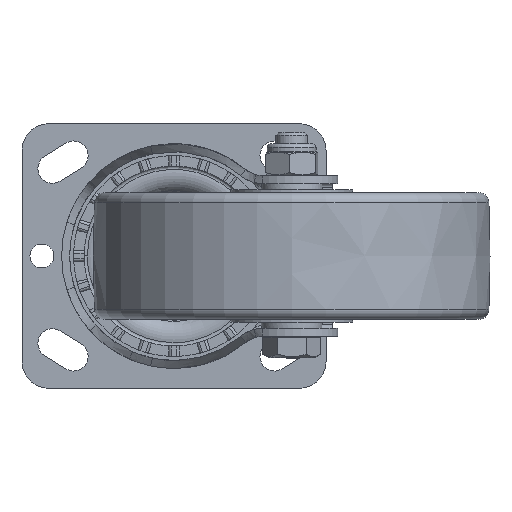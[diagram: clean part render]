
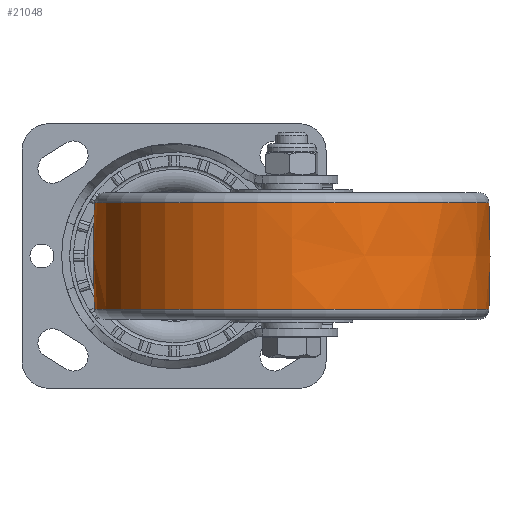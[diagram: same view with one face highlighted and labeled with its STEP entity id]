
A CAD part, front view. The second image highlights one B-rep face of the part: STEP entity #21048.
In plain terms, the highlighted free-form (B-spline) face has degree [2, 2] with [3, 9] control points.
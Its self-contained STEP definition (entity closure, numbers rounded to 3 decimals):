
#15=(
BOUNDED_SURFACE()
B_SPLINE_SURFACE(2,2,((#31087,#31088,#31089,#31090,#31091,#31092,#31093,
#31094,#31095),(#31096,#31097,#31098,#31099,#31100,#31101,#31102,#31103,
#31104),(#31105,#31106,#31107,#31108,#31109,#31110,#31111,#31112,#31113)),
 .UNSPECIFIED.,.F.,.T.,.F.)
B_SPLINE_SURFACE_WITH_KNOTS((3,3),(3,2,2,2,3),(-0.04,0.04),
(-3.142,-1.571,0.,1.571,3.142),
 .UNSPECIFIED.)
GEOMETRIC_REPRESENTATION_ITEM()
RATIONAL_B_SPLINE_SURFACE(((1.,0.707,1.,0.707,1.,
0.707,1.,0.707,1.),(0.999,0.707,
0.999,0.707,0.999,0.707,
0.999,0.707,0.999),(1.,0.707,
1.,0.707,1.,0.707,1.,0.707,1.)))
REPRESENTATION_ITEM('')
SURFACE()
);
#5026=FACE_OUTER_BOUND('',#6259,.T.);
#6259=EDGE_LOOP('',(#15850,#15851,#15852,#15853,#15854,#15855));
#7297=CIRCLE('',#22264,74.594);
#7298=CIRCLE('',#22265,74.594);
#7300=CIRCLE('',#22268,74.594);
#7301=CIRCLE('',#22269,500.5);
#7302=CIRCLE('',#22270,74.594);
#9238=VERTEX_POINT('',#31079);
#9239=VERTEX_POINT('',#31081);
#9241=VERTEX_POINT('',#31114);
#9242=VERTEX_POINT('',#31115);
#11690=EDGE_CURVE('',#9238,#9239,#7297,.T.);
#11691=EDGE_CURVE('',#9239,#9238,#7298,.T.);
#11693=EDGE_CURVE('',#9241,#9242,#7300,.T.);
#11694=EDGE_CURVE('',#9241,#9239,#7301,.T.);
#11695=EDGE_CURVE('',#9242,#9241,#7302,.T.);
#15850=ORIENTED_EDGE('',*,*,#11693,.F.);
#15851=ORIENTED_EDGE('',*,*,#11694,.T.);
#15852=ORIENTED_EDGE('',*,*,#11690,.F.);
#15853=ORIENTED_EDGE('',*,*,#11691,.F.);
#15854=ORIENTED_EDGE('',*,*,#11694,.F.);
#15855=ORIENTED_EDGE('',*,*,#11695,.F.);
#21048=ADVANCED_FACE('',(#5026),#15,.F.);
#22264=AXIS2_PLACEMENT_3D('',#31082,#24430,#24431);
#22265=AXIS2_PLACEMENT_3D('',#31083,#24432,#24433);
#22268=AXIS2_PLACEMENT_3D('',#31116,#24438,#24439);
#22269=AXIS2_PLACEMENT_3D('',#31117,#24440,#24441);
#22270=AXIS2_PLACEMENT_3D('',#31118,#24442,#24443);
#24430=DIRECTION('center_axis',(0.,0.,
-1.));
#24431=DIRECTION('ref_axis',(0.,1.,0.));
#24432=DIRECTION('center_axis',(0.,0.,
-1.));
#24433=DIRECTION('ref_axis',(0.,1.,0.));
#24438=DIRECTION('center_axis',(0.,0.,
1.));
#24439=DIRECTION('ref_axis',(0.,1.,0.));
#24440=DIRECTION('center_axis',(1.,0.,0.));
#24441=DIRECTION('ref_axis',(0.,-1.,0.));
#24442=DIRECTION('center_axis',(0.,0.,
1.));
#24443=DIRECTION('ref_axis',(0.,1.,0.));
#31079=CARTESIAN_POINT('',(44.5,-40.408,-20.161));
#31081=CARTESIAN_POINT('',(44.5,-189.595,-20.161));
#31082=CARTESIAN_POINT('Origin',(44.5,-115.001,-20.161));
#31083=CARTESIAN_POINT('Origin',(44.5,-115.001,-20.161));
#31087=CARTESIAN_POINT('Ctrl Pts',(44.5,-189.595,-20.161));
#31088=CARTESIAN_POINT('Ctrl Pts',(119.094,-189.595,-20.161));
#31089=CARTESIAN_POINT('Ctrl Pts',(119.094,-115.001,-20.161));
#31090=CARTESIAN_POINT('Ctrl Pts',(119.094,-40.408,-20.161));
#31091=CARTESIAN_POINT('Ctrl Pts',(44.5,-40.408,-20.161));
#31092=CARTESIAN_POINT('Ctrl Pts',(-30.094,-40.408,
-20.161));
#31093=CARTESIAN_POINT('Ctrl Pts',(-30.094,-115.001,
-20.161));
#31094=CARTESIAN_POINT('Ctrl Pts',(-30.094,-189.595,-20.161));
#31095=CARTESIAN_POINT('Ctrl Pts',(44.5,-189.595,-20.161));
#31096=CARTESIAN_POINT('Ctrl Pts',(44.5,-190.408,0.));
#31097=CARTESIAN_POINT('Ctrl Pts',(119.907,-190.408,0.));
#31098=CARTESIAN_POINT('Ctrl Pts',(119.907,-115.001,0.));
#31099=CARTESIAN_POINT('Ctrl Pts',(119.907,-39.595,0.));
#31100=CARTESIAN_POINT('Ctrl Pts',(44.5,-39.595,0.));
#31101=CARTESIAN_POINT('Ctrl Pts',(-30.907,-39.595,
0.));
#31102=CARTESIAN_POINT('Ctrl Pts',(-30.907,-115.001,
0.));
#31103=CARTESIAN_POINT('Ctrl Pts',(-30.907,-190.408,
0.));
#31104=CARTESIAN_POINT('Ctrl Pts',(44.5,-190.408,0.));
#31105=CARTESIAN_POINT('Ctrl Pts',(44.5,-189.595,20.161));
#31106=CARTESIAN_POINT('Ctrl Pts',(119.094,-189.595,20.161));
#31107=CARTESIAN_POINT('Ctrl Pts',(119.094,-115.001,20.161));
#31108=CARTESIAN_POINT('Ctrl Pts',(119.094,-40.408,20.161));
#31109=CARTESIAN_POINT('Ctrl Pts',(44.5,-40.408,20.161));
#31110=CARTESIAN_POINT('Ctrl Pts',(-30.094,-40.408,
20.161));
#31111=CARTESIAN_POINT('Ctrl Pts',(-30.094,-115.001,
20.161));
#31112=CARTESIAN_POINT('Ctrl Pts',(-30.094,-189.595,
20.161));
#31113=CARTESIAN_POINT('Ctrl Pts',(44.5,-189.595,20.161));
#31114=CARTESIAN_POINT('',(44.5,-189.595,20.161));
#31115=CARTESIAN_POINT('',(44.5,-40.408,20.161));
#31116=CARTESIAN_POINT('Origin',(44.5,-115.001,20.161));
#31117=CARTESIAN_POINT('Origin',(44.5,310.499,0.));
#31118=CARTESIAN_POINT('Origin',(44.5,-115.001,20.161));
